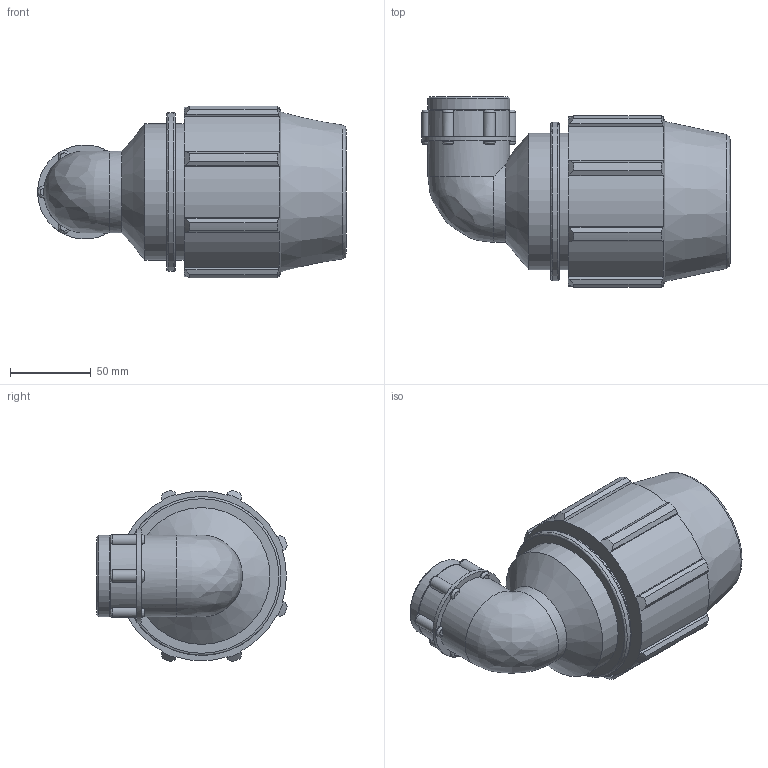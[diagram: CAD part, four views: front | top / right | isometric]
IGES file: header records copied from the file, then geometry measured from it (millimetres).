
Global section: file name: 071500063013_181500063013_0715060630130A.ipt; native system: Autodesk Inventor 2015; preprocessor: unknown; author: KIM; date: 20170606.172330; units: millimetre
Bounding box: 191.12 x 118.16 x 106.32 mm (x, y, z)
Volume: 715977.7 mm3; surface area: 107726.5 mm2
Topology: 1 solids, 1 shells, 138 faces, 380 edges, 248 vertices
Faces by surface type: plane 60, cylinder 41, revolution 22, cone 13, bspline 2
Full cylindrical faces by diameter (mm): 50.638 x2, 58.233 x1, 84.75 x2, 98.31 x1
